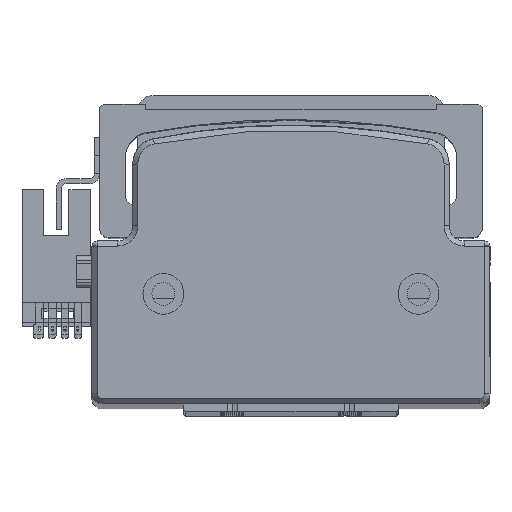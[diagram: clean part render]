
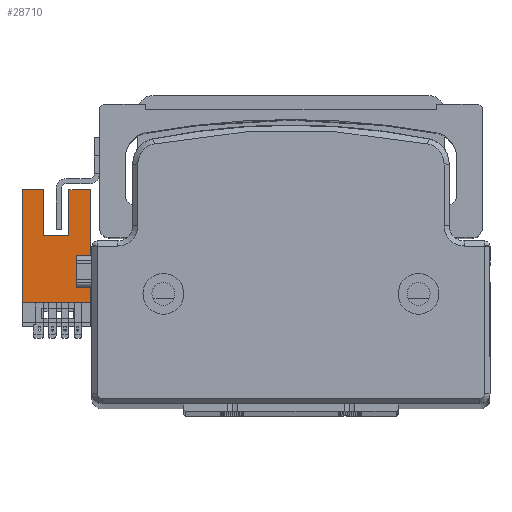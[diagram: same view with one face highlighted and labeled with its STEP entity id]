
A CAD part, top view. The second image highlights one B-rep face of the part: STEP entity #28710.
In plain terms, the highlighted planar face has unit normal (0, 0, 1) as drawn and (1, 0, 0) by its records, which use the part's own axes.
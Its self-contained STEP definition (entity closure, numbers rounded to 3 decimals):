
#254 = VECTOR ( 'NONE', #25215, 1000. ) ;
#541 = VERTEX_POINT ( 'NONE', #47362 ) ;
#1021 = LINE ( 'NONE', #4725, #20637 ) ;
#2054 = DIRECTION ( 'NONE',  ( 0., 0., 1. ) ) ;
#2604 = LINE ( 'NONE', #47030, #254 ) ;
#3099 = ORIENTED_EDGE ( 'NONE', *, *, #21452, .F. ) ;
#3443 = VERTEX_POINT ( 'NONE', #25684 ) ;
#3582 = EDGE_CURVE ( 'NONE', #41090, #13957, #1021, .T. ) ;
#4725 = CARTESIAN_POINT ( 'NONE',  ( 3.2, 3.85, 0. ) ) ;
#4770 = LINE ( 'NONE', #45967, #14573 ) ;
#7101 = DIRECTION ( 'NONE',  ( 0., 1., 0. ) ) ;
#7144 = ORIENTED_EDGE ( 'NONE', *, *, #28601, .T. ) ;
#10318 = EDGE_CURVE ( 'NONE', #14316, #541, #2604, .T. ) ;
#10978 = CARTESIAN_POINT ( 'NONE',  ( 3.2, 3.85, 22.2 ) ) ;
#11540 = ORIENTED_EDGE ( 'NONE', *, *, #10318, .T. ) ;
#11716 = CARTESIAN_POINT ( 'NONE',  ( 3.2, 3.85, 22.2 ) ) ;
#13534 = CARTESIAN_POINT ( 'NONE',  ( 3.2, -6.85, 22.2 ) ) ;
#13919 = CARTESIAN_POINT ( 'NONE',  ( 3.2, -6.85, 0. ) ) ;
#13957 = VERTEX_POINT ( 'NONE', #17675 ) ;
#14241 = LINE ( 'NONE', #11716, #42298 ) ;
#14316 = VERTEX_POINT ( 'NONE', #35219 ) ;
#14396 = ORIENTED_EDGE ( 'NONE', *, *, #39308, .T. ) ;
#14564 = LINE ( 'NONE', #37467, #41476 ) ;
#14573 = VECTOR ( 'NONE', #2054, 1000. ) ;
#14713 = ORIENTED_EDGE ( 'NONE', *, *, #32371, .F. ) ;
#15143 = DIRECTION ( 'NONE',  ( 0., 1., 0. ) ) ;
#15800 = VECTOR ( 'NONE', #30578, 1000. ) ;
#16033 = VECTOR ( 'NONE', #25030, 1000. ) ;
#17256 = AXIS2_PLACEMENT_3D ( 'NONE', #34509, #41858, #19969 ) ;
#17675 = CARTESIAN_POINT ( 'NONE',  ( 3.2, -6.85, 0. ) ) ;
#17770 = EDGE_CURVE ( 'NONE', #3443, #27477, #21914, .T. ) ;
#18034 = CARTESIAN_POINT ( 'NONE',  ( 3.2, 3.85, 3. ) ) ;
#18822 = CARTESIAN_POINT ( 'NONE',  ( 3.2, 2.35, 13.2 ) ) ;
#19277 = DIRECTION ( 'NONE',  ( 0., -1., 0. ) ) ;
#19366 = CARTESIAN_POINT ( 'NONE',  ( 3.2, 2.35, 13.2 ) ) ;
#19969 = DIRECTION ( 'NONE',  ( 0., 0., -1. ) ) ;
#20637 = VECTOR ( 'NONE', #30453, 1000. ) ;
#21167 = EDGE_CURVE ( 'NONE', #32697, #42362, #14241, .T. ) ;
#21348 = CARTESIAN_POINT ( 'NONE',  ( 3.2, 6.55, 0. ) ) ;
#21452 = EDGE_CURVE ( 'NONE', #13957, #42362, #41125, .T. ) ;
#21914 = LINE ( 'NONE', #10978, #30510 ) ;
#22122 = ORIENTED_EDGE ( 'NONE', *, *, #3582, .F. ) ;
#22143 = VERTEX_POINT ( 'NONE', #42234 ) ;
#22237 = VECTOR ( 'NONE', #15143, 1000. ) ;
#22646 = EDGE_CURVE ( 'NONE', #36366, #27477, #24398, .T. ) ;
#22872 = DIRECTION ( 'NONE',  ( 0., 0., 1. ) ) ;
#24398 = LINE ( 'NONE', #19366, #15800 ) ;
#25030 = DIRECTION ( 'NONE',  ( 0., 0., 1. ) ) ;
#25215 = DIRECTION ( 'NONE',  ( 0., 1., 0. ) ) ;
#25294 = VERTEX_POINT ( 'NONE', #39678 ) ;
#25585 = ORIENTED_EDGE ( 'NONE', *, *, #22646, .F. ) ;
#25624 = DIRECTION ( 'NONE',  ( 0., -1., 0. ) ) ;
#25684 = CARTESIAN_POINT ( 'NONE',  ( 3.2, 6.55, 22.2 ) ) ;
#25781 = CARTESIAN_POINT ( 'NONE',  ( 3.2, 3.85, 3. ) ) ;
#25809 = LINE ( 'NONE', #21348, #16033 ) ;
#26401 = EDGE_CURVE ( 'NONE', #30864, #14316, #14564, .T. ) ;
#26496 = ORIENTED_EDGE ( 'NONE', *, *, #40983, .F. ) ;
#27187 = PLANE ( 'NONE',  #17256 ) ;
#27477 = VERTEX_POINT ( 'NONE', #44022 ) ;
#28077 = ORIENTED_EDGE ( 'NONE', *, *, #30301, .T. ) ;
#28601 = EDGE_CURVE ( 'NONE', #41090, #22143, #35133, .T. ) ;
#28710 = ADVANCED_FACE ( 'NONE', ( #46546 ), #27187, .T. ) ;
#30301 = EDGE_CURVE ( 'NONE', #25294, #32697, #4770, .T. ) ;
#30453 = DIRECTION ( 'NONE',  ( 0., -1., 0. ) ) ;
#30510 = VECTOR ( 'NONE', #25624, 1000. ) ;
#30578 = DIRECTION ( 'NONE',  ( 0., 0., 1. ) ) ;
#30864 = VERTEX_POINT ( 'NONE', #25781 ) ;
#31419 = VECTOR ( 'NONE', #43180, 1000. ) ;
#32371 = EDGE_CURVE ( 'NONE', #30864, #22143, #44696, .T. ) ;
#32697 = VERTEX_POINT ( 'NONE', #38629 ) ;
#33157 = ORIENTED_EDGE ( 'NONE', *, *, #17770, .T. ) ;
#33888 = CARTESIAN_POINT ( 'NONE',  ( 3.2, 6.55, 0. ) ) ;
#34509 = CARTESIAN_POINT ( 'NONE',  ( 3.2, 3.85, 0. ) ) ;
#34929 = CARTESIAN_POINT ( 'NONE',  ( 3.2, 2.35, 13.2 ) ) ;
#35133 = LINE ( 'NONE', #33888, #43705 ) ;
#35219 = CARTESIAN_POINT ( 'NONE',  ( 3.2, 3.85, 9.2 ) ) ;
#36366 = VERTEX_POINT ( 'NONE', #34929 ) ;
#36522 = ORIENTED_EDGE ( 'NONE', *, *, #26401, .T. ) ;
#37467 = CARTESIAN_POINT ( 'NONE',  ( 3.2, 3.85, 0. ) ) ;
#38629 = CARTESIAN_POINT ( 'NONE',  ( 3.2, -2.65, 22.2 ) ) ;
#39308 = EDGE_CURVE ( 'NONE', #541, #3443, #25809, .T. ) ;
#39678 = CARTESIAN_POINT ( 'NONE',  ( 3.2, -2.65, 13.2 ) ) ;
#40983 = EDGE_CURVE ( 'NONE', #25294, #36366, #47357, .T. ) ;
#41090 = VERTEX_POINT ( 'NONE', #41868 ) ;
#41125 = LINE ( 'NONE', #13919, #31419 ) ;
#41167 = DIRECTION ( 'NONE',  ( 0., 0., 1. ) ) ;
#41476 = VECTOR ( 'NONE', #41167, 1000. ) ;
#41858 = DIRECTION ( 'NONE',  ( 1., 0., 0. ) ) ;
#41868 = CARTESIAN_POINT ( 'NONE',  ( 3.2, 6.55, 0. ) ) ;
#42234 = CARTESIAN_POINT ( 'NONE',  ( 3.2, 6.55, 3. ) ) ;
#42298 = VECTOR ( 'NONE', #19277, 1000. ) ;
#42362 = VERTEX_POINT ( 'NONE', #13534 ) ;
#42417 = VECTOR ( 'NONE', #7101, 1000. ) ;
#42988 = ORIENTED_EDGE ( 'NONE', *, *, #21167, .T. ) ;
#43180 = DIRECTION ( 'NONE',  ( 0., 0., 1. ) ) ;
#43705 = VECTOR ( 'NONE', #22872, 1000. ) ;
#44022 = CARTESIAN_POINT ( 'NONE',  ( 3.2, 2.35, 22.2 ) ) ;
#44696 = LINE ( 'NONE', #18034, #42417 ) ;
#45967 = CARTESIAN_POINT ( 'NONE',  ( 3.2, -2.65, 13.2 ) ) ;
#46546 = FACE_OUTER_BOUND ( 'NONE', #46930, .T. ) ;
#46930 = EDGE_LOOP ( 'NONE', ( #28077, #42988, #3099, #22122, #7144, #14713, #36522, #11540, #14396, #33157, #25585, #26496 ) ) ;
#47030 = CARTESIAN_POINT ( 'NONE',  ( 3.2, -6.85, 9.2 ) ) ;
#47357 = LINE ( 'NONE', #18822, #22237 ) ;
#47362 = CARTESIAN_POINT ( 'NONE',  ( 3.2, 6.55, 9.2 ) ) ;
